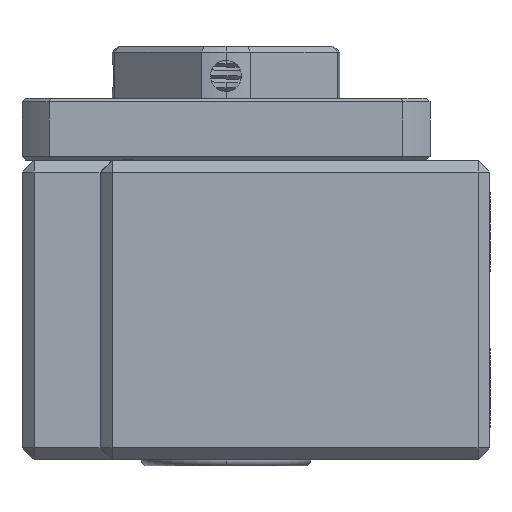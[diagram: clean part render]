
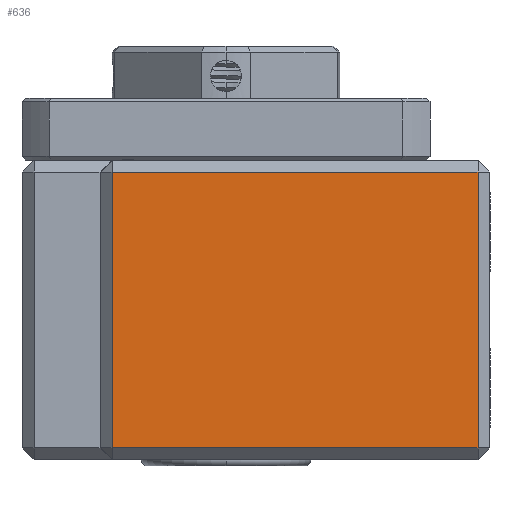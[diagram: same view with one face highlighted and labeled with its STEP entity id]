
A CAD part, left-side view. The second image highlights one B-rep face of the part: STEP entity #636.
In plain terms, the highlighted planar face has unit normal (-1, 0, 0).
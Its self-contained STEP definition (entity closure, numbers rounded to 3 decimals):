
#636 = ADVANCED_FACE ( 'NONE', ( #990 ), #14904, .F. ) ;
#990 = FACE_OUTER_BOUND ( 'NONE', #6656, .T. ) ;
#1360 = EDGE_CURVE ( 'NONE', #21391, #3205, #2501, .T. ) ;
#2302 = DIRECTION ( 'NONE',  ( 0., -1., 0. ) ) ;
#2501 = LINE ( 'NONE', #8216, #3523 ) ;
#2972 = ORIENTED_EDGE ( 'NONE', *, *, #1360, .F. ) ;
#3043 = DIRECTION ( 'NONE',  ( 1., 0., 0. ) ) ;
#3205 = VERTEX_POINT ( 'NONE', #20806 ) ;
#3523 = VECTOR ( 'NONE', #10521, 1000. ) ;
#4264 = DIRECTION ( 'NONE',  ( 0., 1., 0. ) ) ;
#5335 = CARTESIAN_POINT ( 'NONE',  ( -30., 1., -11.5 ) ) ;
#5897 = LINE ( 'NONE', #15479, #12517 ) ;
#6656 = EDGE_LOOP ( 'NONE', ( #17617, #11352, #2972, #17987 ) ) ;
#8151 = AXIS2_PLACEMENT_3D ( 'NONE', #5335, #3043, #10818 ) ;
#8216 = CARTESIAN_POINT ( 'NONE',  ( -30., 31.5, -11.5 ) ) ;
#8635 = CARTESIAN_POINT ( 'NONE',  ( -30., 1., -11.5 ) ) ;
#10521 = DIRECTION ( 'NONE',  ( 0., 0., 1. ) ) ;
#10818 = DIRECTION ( 'NONE',  ( 0., 1., 0. ) ) ;
#10930 = VECTOR ( 'NONE', #2302, 1000. ) ;
#11245 = CARTESIAN_POINT ( 'NONE',  ( -30., 1., 11.5 ) ) ;
#11352 = ORIENTED_EDGE ( 'NONE', *, *, #16275, .F. ) ;
#12517 = VECTOR ( 'NONE', #4264, 1000. ) ;
#13783 = CARTESIAN_POINT ( 'NONE',  ( -30., 31.5, 11.5 ) ) ;
#14546 = VERTEX_POINT ( 'NONE', #8635 ) ;
#14904 = PLANE ( 'NONE',  #8151 ) ;
#15479 = CARTESIAN_POINT ( 'NONE',  ( -30., 1., -11.5 ) ) ;
#16275 = EDGE_CURVE ( 'NONE', #3205, #24699, #19897, .T. ) ;
#17617 = ORIENTED_EDGE ( 'NONE', *, *, #19596, .F. ) ;
#17987 = ORIENTED_EDGE ( 'NONE', *, *, #20875, .F. ) ;
#18235 = CARTESIAN_POINT ( 'NONE',  ( -30., 1., 11.5 ) ) ;
#19596 = EDGE_CURVE ( 'NONE', #24699, #14546, #22919, .T. ) ;
#19897 = LINE ( 'NONE', #13783, #10930 ) ;
#19940 = CARTESIAN_POINT ( 'NONE',  ( -30., 31.5, -11.5 ) ) ;
#20806 = CARTESIAN_POINT ( 'NONE',  ( -30., 31.5, 11.5 ) ) ;
#20875 = EDGE_CURVE ( 'NONE', #14546, #21391, #5897, .T. ) ;
#21391 = VERTEX_POINT ( 'NONE', #19940 ) ;
#21735 = VECTOR ( 'NONE', #22674, 1000. ) ;
#22674 = DIRECTION ( 'NONE',  ( 0., 0., -1. ) ) ;
#22919 = LINE ( 'NONE', #11245, #21735 ) ;
#24699 = VERTEX_POINT ( 'NONE', #18235 ) ;
